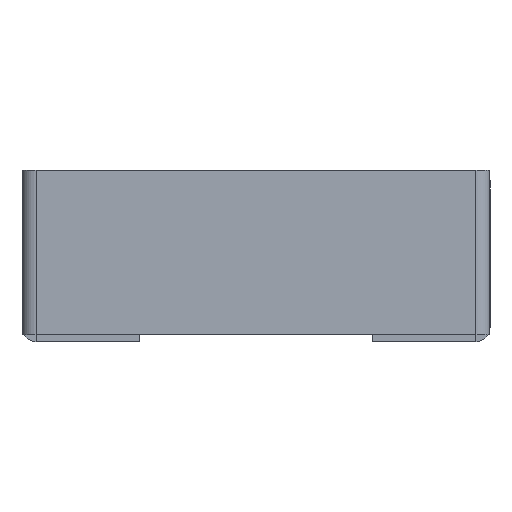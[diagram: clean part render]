
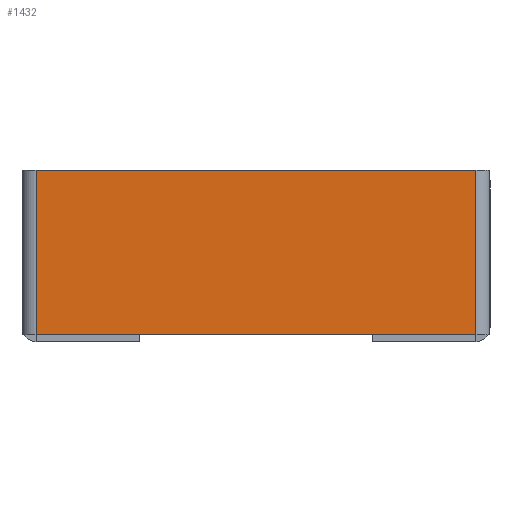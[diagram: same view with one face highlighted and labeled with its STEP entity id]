
A CAD part, front view. The second image highlights one B-rep face of the part: STEP entity #1432.
In plain terms, the highlighted planar face has unit normal (0, -1, 0).
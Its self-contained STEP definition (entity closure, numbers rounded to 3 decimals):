
#152 = VECTOR ( 'NONE', #9315, 1000. ) ;
#503 = EDGE_CURVE ( 'NONE', #1563, #4844, #8381, .T. ) ;
#717 = DIRECTION ( 'NONE',  ( 1., 0., 0. ) ) ;
#1432 = ADVANCED_FACE ( 'NONE', ( #4053 ), #6820, .F. ) ;
#1563 = VERTEX_POINT ( 'NONE', #6246 ) ;
#1751 = EDGE_CURVE ( 'NONE', #4403, #7678, #9520, .T. ) ;
#1801 = CARTESIAN_POINT ( 'NONE',  ( 77.5, -2.5, -58. ) ) ;
#2330 = CARTESIAN_POINT ( 'NONE',  ( -80., -2.5, -58. ) ) ;
#2478 = DIRECTION ( 'NONE',  ( -1., 0., 0. ) ) ;
#2547 = LINE ( 'NONE', #10057, #4862 ) ;
#2649 = DIRECTION ( 'NONE',  ( 0., 1., 0. ) ) ;
#2655 = VECTOR ( 'NONE', #717, 1000. ) ;
#2720 = CARTESIAN_POINT ( 'NONE',  ( 0., -2.5, 0. ) ) ;
#3078 = ORIENTED_EDGE ( 'NONE', *, *, #6935, .T. ) ;
#4043 = VECTOR ( 'NONE', #2478, 1000. ) ;
#4053 = FACE_OUTER_BOUND ( 'NONE', #9290, .T. ) ;
#4403 = VERTEX_POINT ( 'NONE', #10171 ) ;
#4553 = ORIENTED_EDGE ( 'NONE', *, *, #1751, .F. ) ;
#4844 = VERTEX_POINT ( 'NONE', #5241 ) ;
#4862 = VECTOR ( 'NONE', #6756, 1000. ) ;
#5241 = CARTESIAN_POINT ( 'NONE',  ( 77.5, -2.5, 0. ) ) ;
#6246 = CARTESIAN_POINT ( 'NONE',  ( -77.5, -2.5, 0. ) ) ;
#6259 = AXIS2_PLACEMENT_3D ( 'NONE', #2720, #2649, #6775 ) ;
#6421 = LINE ( 'NONE', #1801, #152 ) ;
#6669 = ORIENTED_EDGE ( 'NONE', *, *, #6877, .T. ) ;
#6756 = DIRECTION ( 'NONE',  ( 0., 0., -1. ) ) ;
#6775 = DIRECTION ( 'NONE',  ( 0., 0., 1. ) ) ;
#6820 = PLANE ( 'NONE',  #6259 ) ;
#6877 = EDGE_CURVE ( 'NONE', #1563, #7678, #2547, .T. ) ;
#6935 = EDGE_CURVE ( 'NONE', #4403, #4844, #6421, .T. ) ;
#7678 = VERTEX_POINT ( 'NONE', #9248 ) ;
#8381 = LINE ( 'NONE', #9952, #2655 ) ;
#9248 = CARTESIAN_POINT ( 'NONE',  ( -77.5, -2.5, -58. ) ) ;
#9290 = EDGE_LOOP ( 'NONE', ( #6669, #4553, #3078, #10094 ) ) ;
#9315 = DIRECTION ( 'NONE',  ( 0., 0., 1. ) ) ;
#9520 = LINE ( 'NONE', #2330, #4043 ) ;
#9952 = CARTESIAN_POINT ( 'NONE',  ( -80., -2.5, 0. ) ) ;
#10057 = CARTESIAN_POINT ( 'NONE',  ( -77.5, -2.5, 0. ) ) ;
#10094 = ORIENTED_EDGE ( 'NONE', *, *, #503, .F. ) ;
#10171 = CARTESIAN_POINT ( 'NONE',  ( 77.5, -2.5, -58. ) ) ;
